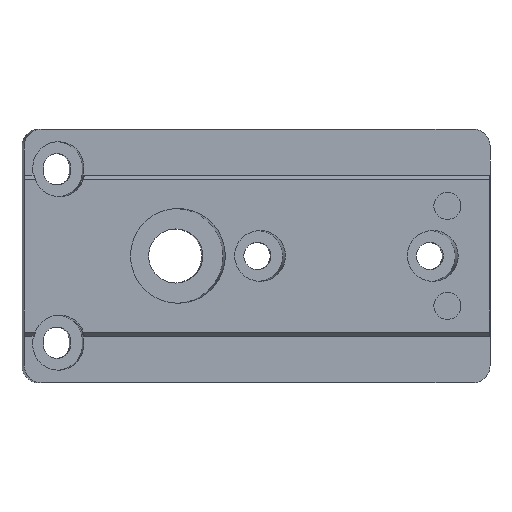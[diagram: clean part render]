
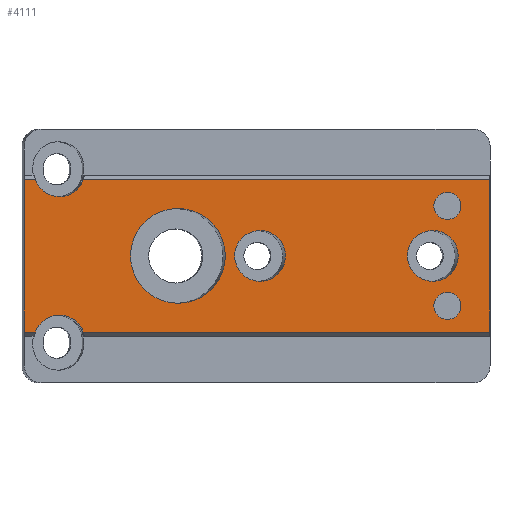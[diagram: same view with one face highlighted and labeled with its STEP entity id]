
A CAD part, top view. The second image highlights one B-rep face of the part: STEP entity #4111.
In plain terms, the highlighted planar face has unit normal (0, 0, 1).
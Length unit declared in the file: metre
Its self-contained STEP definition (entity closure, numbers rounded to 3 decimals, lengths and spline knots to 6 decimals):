
#144=ELLIPSE('',#4375,0.005603,0.0056);
#145=ELLIPSE('',#4376,0.003002,0.003);
#146=ELLIPSE('',#4377,0.003002,0.003);
#147=ELLIPSE('',#4380,0.003002,0.003);
#148=ELLIPSE('',#4381,0.003002,0.003);
#238=CIRCLE('',#4378,0.0016);
#239=CIRCLE('',#4379,0.0016);
#353=ORIENTED_EDGE('',*,*,#1599,.T.);
#354=ORIENTED_EDGE('',*,*,#1600,.T.);
#355=ORIENTED_EDGE('',*,*,#1601,.T.);
#356=ORIENTED_EDGE('',*,*,#1602,.T.);
#357=ORIENTED_EDGE('',*,*,#1603,.T.);
#358=ORIENTED_EDGE('',*,*,#1604,.F.);
#359=ORIENTED_EDGE('',*,*,#1605,.T.);
#360=ORIENTED_EDGE('',*,*,#1606,.F.);
#361=ORIENTED_EDGE('',*,*,#1607,.T.);
#362=ORIENTED_EDGE('',*,*,#1608,.F.);
#363=ORIENTED_EDGE('',*,*,#1609,.T.);
#364=ORIENTED_EDGE('',*,*,#1610,.T.);
#365=ORIENTED_EDGE('',*,*,#1611,.T.);
#1599=EDGE_CURVE('',#2222,#2222,#144,.T.);
#1600=EDGE_CURVE('',#2223,#2223,#145,.T.);
#1601=EDGE_CURVE('',#2224,#2224,#146,.T.);
#1602=EDGE_CURVE('',#2225,#2225,#238,.T.);
#1603=EDGE_CURVE('',#2226,#2226,#239,.T.);
#1604=EDGE_CURVE('',#2227,#2228,#147,.F.);
#1605=EDGE_CURVE('',#2227,#2229,#2623,.T.);
#1606=EDGE_CURVE('',#2230,#2229,#2624,.T.);
#1607=EDGE_CURVE('',#2230,#2231,#2625,.T.);
#1608=EDGE_CURVE('',#2232,#2231,#148,.F.);
#1609=EDGE_CURVE('',#2232,#2233,#2626,.T.);
#1610=EDGE_CURVE('',#2233,#2234,#2627,.T.);
#1611=EDGE_CURVE('',#2234,#2228,#2628,.T.);
#2222=VERTEX_POINT('',#5770);
#2223=VERTEX_POINT('',#5772);
#2224=VERTEX_POINT('',#5774);
#2225=VERTEX_POINT('',#5776);
#2226=VERTEX_POINT('',#5778);
#2227=VERTEX_POINT('',#5780);
#2228=VERTEX_POINT('',#5781);
#2229=VERTEX_POINT('',#5783);
#2230=VERTEX_POINT('',#5785);
#2231=VERTEX_POINT('',#5787);
#2232=VERTEX_POINT('',#5789);
#2233=VERTEX_POINT('',#5791);
#2234=VERTEX_POINT('',#5793);
#2623=LINE('',#5782,#3042);
#2624=LINE('',#5784,#3043);
#2625=LINE('',#5786,#3044);
#2626=LINE('',#5790,#3045);
#2627=LINE('',#5792,#3046);
#2628=LINE('',#5794,#3047);
#3042=VECTOR('',#4737,1.);
#3043=VECTOR('',#4738,1.);
#3044=VECTOR('',#4739,1.);
#3045=VECTOR('',#4742,1.);
#3046=VECTOR('',#4743,1.);
#3047=VECTOR('',#4744,1.);
#3448=EDGE_LOOP('',(#353));
#3449=EDGE_LOOP('',(#354));
#3450=EDGE_LOOP('',(#355));
#3451=EDGE_LOOP('',(#356));
#3452=EDGE_LOOP('',(#357));
#3453=EDGE_LOOP('',(#358,#359,#360,#361,#362,#363,#364,#365));
#3715=FACE_BOUND('',#3448,.T.);
#3716=FACE_BOUND('',#3449,.T.);
#3717=FACE_BOUND('',#3450,.T.);
#3718=FACE_BOUND('',#3451,.T.);
#3719=FACE_BOUND('',#3452,.T.);
#3720=FACE_BOUND('',#3453,.T.);
#3974=PLANE('',#4374);
#4111=ADVANCED_FACE('',(#3715,#3716,#3717,#3718,#3719,#3720),#3974,.F.);
#4374=AXIS2_PLACEMENT_3D('',#5768,#4723,#4724);
#4375=AXIS2_PLACEMENT_3D('',#5769,#4725,#4726);
#4376=AXIS2_PLACEMENT_3D('',#5771,#4727,#4728);
#4377=AXIS2_PLACEMENT_3D('',#5773,#4729,#4730);
#4378=AXIS2_PLACEMENT_3D('',#5775,#4731,#4732);
#4379=AXIS2_PLACEMENT_3D('',#5777,#4733,#4734);
#4380=AXIS2_PLACEMENT_3D('',#5779,#4735,#4736);
#4381=AXIS2_PLACEMENT_3D('',#5788,#4740,#4741);
#4723=DIRECTION('',(0.,0.,-1.));
#4724=DIRECTION('',(-1.,0.,0.));
#4725=DIRECTION('',(0.,0.,-1.));
#4726=DIRECTION('',(-1.,0.,0.));
#4727=DIRECTION('',(0.,0.,-1.));
#4728=DIRECTION('',(-1.,0.,0.));
#4729=DIRECTION('',(0.,0.,-1.));
#4730=DIRECTION('',(-1.,0.,0.));
#4731=DIRECTION('',(0.,0.,-1.));
#4732=DIRECTION('',(-1.,0.,0.));
#4733=DIRECTION('',(0.,0.,-1.));
#4734=DIRECTION('',(-1.,0.,0.));
#4735=DIRECTION('',(0.,0.,-1.));
#4736=DIRECTION('',(-1.,0.,0.));
#4737=DIRECTION('',(1.,0.,0.));
#4738=DIRECTION('',(0.,-1.,0.));
#4739=DIRECTION('',(-1.,0.,0.));
#4740=DIRECTION('',(0.,0.,-1.));
#4741=DIRECTION('',(-1.,0.,0.));
#4742=DIRECTION('',(-1.,0.,0.));
#4743=DIRECTION('',(0.,-1.,0.));
#4744=DIRECTION('',(1.,0.,0.));
#5768=CARTESIAN_POINT('',(0.055,0.,0.0041));
#5769=CARTESIAN_POINT('',(0.018154,0.,0.0041));
#5770=CARTESIAN_POINT('',(0.012551,0.,0.0041));
#5771=CARTESIAN_POINT('',(0.048272,0.,0.0041));
#5772=CARTESIAN_POINT('',(0.045271,0.,0.0041));
#5773=CARTESIAN_POINT('',(0.02786,0.,0.0041));
#5774=CARTESIAN_POINT('',(0.024858,0.,0.0041));
#5775=CARTESIAN_POINT('',(0.05,0.0059,0.0041));
#5776=CARTESIAN_POINT('',(0.0484,0.0059,0.0041));
#5777=CARTESIAN_POINT('',(0.05,-0.0059,0.0041));
#5778=CARTESIAN_POINT('',(0.0484,-0.0059,0.0041));
#5779=CARTESIAN_POINT('',(0.004146,-0.01,0.0041));
#5780=CARTESIAN_POINT('',(0.006977,-0.009004,0.0041));
#5781=CARTESIAN_POINT('',(0.001314,-0.009004,0.0041));
#5782=CARTESIAN_POINT('',(0.055,-0.009004,0.0041));
#5783=CARTESIAN_POINT('',(0.055,-0.009004,0.0041));
#5784=CARTESIAN_POINT('',(0.055,0.,0.0041));
#5785=CARTESIAN_POINT('',(0.055,0.009004,0.0041));
#5786=CARTESIAN_POINT('',(0.,0.009004,0.0041));
#5787=CARTESIAN_POINT('',(0.006977,0.009004,0.0041));
#5788=CARTESIAN_POINT('',(0.004146,0.01,0.0041));
#5789=CARTESIAN_POINT('',(0.001314,0.009004,0.0041));
#5790=CARTESIAN_POINT('',(0.,0.009004,0.0041));
#5791=CARTESIAN_POINT('',(0.,0.009004,0.0041));
#5792=CARTESIAN_POINT('',(0.,0.,0.0041));
#5793=CARTESIAN_POINT('',(0.,-0.009004,0.0041));
#5794=CARTESIAN_POINT('',(0.055,-0.009004,0.0041));
